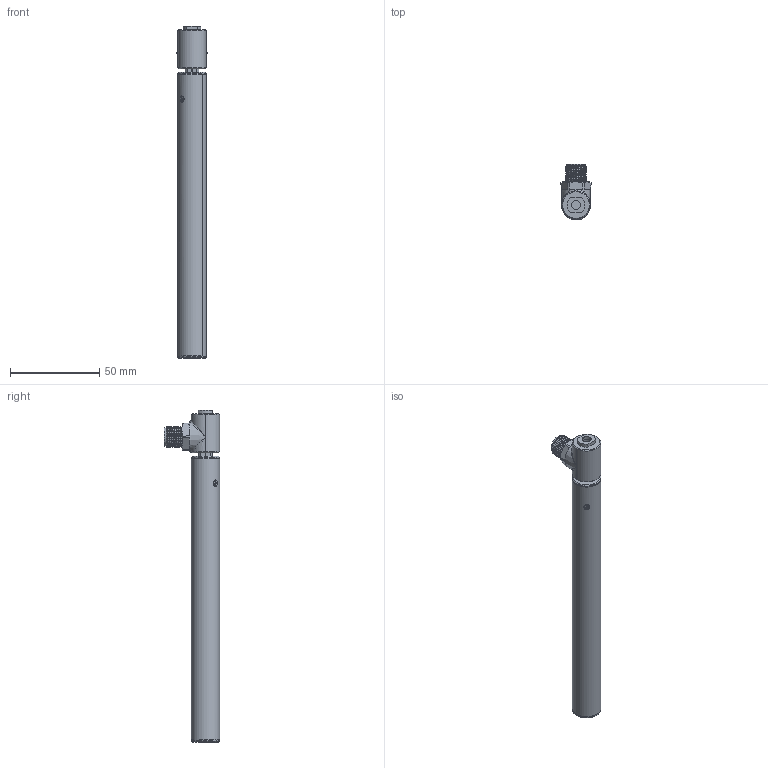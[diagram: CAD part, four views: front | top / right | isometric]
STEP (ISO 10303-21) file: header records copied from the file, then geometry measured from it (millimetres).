
FILE_DESCRIPTION (( 'STEP AP203' ), '1' );
FILE_NAME ('LS-A-0100.STEP', '2022-02-25T09:14:11', ( '' ), ( '' ), 'SwSTEP 2.0', 'SolidWorks 2021', '' );
FILE_SCHEMA (( 'CONFIG_CONTROL_DESIGN' ));
Length unit declared in the file: millimetre
Products named in the file (10): TUBTHQ0100x; LS-A-0100; TUBTHE0100; TES703x; CON092; TES702x; BUS035x; TAP920x; MIM343; TES700x
Assembly tree (10 placements, depth 2):
  LS-A-0100
    TES700x
    MIM343  x2
    CON092
    TUBTHE0100
    TES702x
    BUS035x
    TUBTHQ0100x
    TAP920x
    TES703x
Bounding box: 16.96 x 31 x 186 mm (x, y, z)
Volume: 19220.6 mm3; surface area: 26644.3 mm2
Topology: 11 solids, 11 shells, 370 faces, 924 edges, 591 vertices
Faces by surface type: plane 156, cylinder 139, cone 45, bspline 26, torus 4
Entity records: 14622 total; most frequent: CARTESIAN_POINT 5377, ORIENTED_EDGE 1714, DIRECTION 1714, EDGE_CURVE 857, AXIS2_PLACEMENT_3D 671, VERTEX_POINT 555, EDGE_LOOP 392, LINE 372
